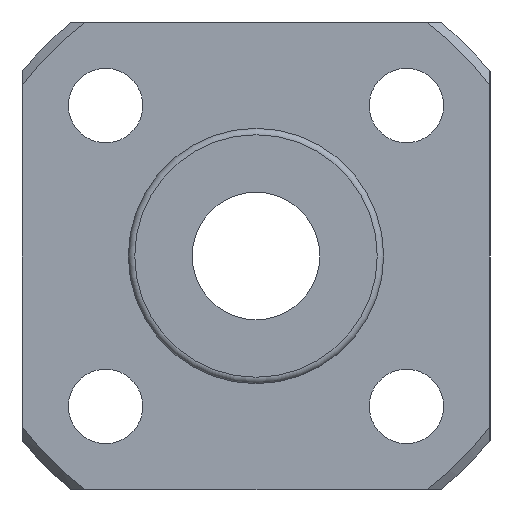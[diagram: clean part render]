
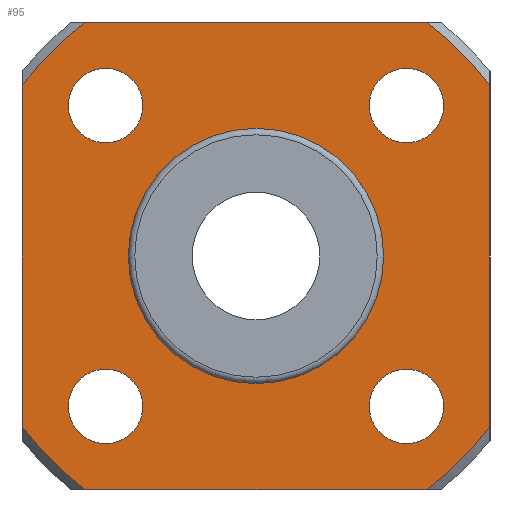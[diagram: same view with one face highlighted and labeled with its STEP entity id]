
A CAD part, left-side view. The second image highlights one B-rep face of the part: STEP entity #95.
In plain terms, the highlighted planar face has unit normal (-1, 0, 0).
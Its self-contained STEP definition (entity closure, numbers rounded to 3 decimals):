
#95=ADVANCED_FACE('',(#171,#172,#173,#174,#175,#176),#177,.T.);
#171=FACE_BOUND('',#271,.T.);
#172=FACE_BOUND('',#272,.T.);
#173=FACE_BOUND('',#273,.T.);
#174=FACE_BOUND('',#274,.T.);
#175=FACE_BOUND('',#275,.T.);
#176=FACE_OUTER_BOUND('',#276,.T.);
#177=PLANE('',#277);
#271=EDGE_LOOP('',(#445));
#272=EDGE_LOOP('',(#446));
#273=EDGE_LOOP('',(#447));
#274=EDGE_LOOP('',(#448));
#275=EDGE_LOOP('',(#449));
#276=EDGE_LOOP('',(#450,#451,#452,#453,#454,#455,#456,#457));
#277=AXIS2_PLACEMENT_3D('',#458,#459,#460);
#445=ORIENTED_EDGE('',*,*,#575,.T.);
#446=ORIENTED_EDGE('',*,*,#579,.T.);
#447=ORIENTED_EDGE('',*,*,#615,.T.);
#448=ORIENTED_EDGE('',*,*,#577,.T.);
#449=ORIENTED_EDGE('',*,*,#573,.T.);
#450=ORIENTED_EDGE('',*,*,#590,.F.);
#451=ORIENTED_EDGE('',*,*,#567,.T.);
#452=ORIENTED_EDGE('',*,*,#616,.F.);
#453=ORIENTED_EDGE('',*,*,#605,.T.);
#454=ORIENTED_EDGE('',*,*,#617,.F.);
#455=ORIENTED_EDGE('',*,*,#597,.T.);
#456=ORIENTED_EDGE('',*,*,#618,.F.);
#457=ORIENTED_EDGE('',*,*,#619,.T.);
#458=CARTESIAN_POINT('',(-5.0,9.675,0.));
#459=DIRECTION('',(-1.0,0.0,0.));
#460=DIRECTION('',(0.,0.0,1.0));
#567=EDGE_CURVE('',#644,#642,#645,.T.);
#573=EDGE_CURVE('',#655,#655,#656,.F.);
#575=EDGE_CURVE('',#659,#659,#660,.F.);
#577=EDGE_CURVE('',#663,#663,#664,.F.);
#579=EDGE_CURVE('',#667,#667,#668,.F.);
#590=EDGE_CURVE('',#644,#689,#690,.T.);
#597=EDGE_CURVE('',#703,#701,#704,.T.);
#605=EDGE_CURVE('',#719,#717,#720,.T.);
#615=EDGE_CURVE('',#734,#734,#735,.T.);
#616=EDGE_CURVE('',#719,#642,#736,.T.);
#617=EDGE_CURVE('',#703,#717,#737,.T.);
#618=EDGE_CURVE('',#738,#701,#739,.T.);
#619=EDGE_CURVE('',#738,#689,#740,.T.);
#642=VERTEX_POINT('',#776);
#644=VERTEX_POINT('',#781);
#645=LINE('',#782,#783);
#655=VERTEX_POINT('',#797);
#656=CIRCLE('',#798,1.75);
#659=VERTEX_POINT('',#801);
#660=CIRCLE('',#802,1.75);
#663=VERTEX_POINT('',#805);
#664=CIRCLE('',#806,1.75);
#667=VERTEX_POINT('',#809);
#668=CIRCLE('',#810,1.75);
#689=VERTEX_POINT('',#831);
#690=CIRCLE('',#832,13.6);
#701=VERTEX_POINT('',#854);
#703=VERTEX_POINT('',#859);
#704=LINE('',#860,#861);
#717=VERTEX_POINT('',#886);
#719=VERTEX_POINT('',#891);
#720=LINE('',#892,#893);
#734=VERTEX_POINT('',#912);
#735=CIRCLE('',#913,5.75);
#736=CIRCLE('',#914,13.6);
#737=CIRCLE('',#915,13.6);
#738=VERTEX_POINT('',#916);
#739=CIRCLE('',#917,13.6);
#740=LINE('',#918,#919);
#776=CARTESIAN_POINT('',(-5.0,-11.0,7.997));
#781=CARTESIAN_POINT('',(-5.0,-11.0,-7.997));
#782=CARTESIAN_POINT('',(-5.0,-11.0,0.));
#783=VECTOR('',#951,1.0);
#797=CARTESIAN_POINT('',(-5.0,7.071,-5.321));
#798=AXIS2_PLACEMENT_3D('',#962,#963,#964);
#801=CARTESIAN_POINT('',(-5.0,-7.071,-5.321));
#802=AXIS2_PLACEMENT_3D('',#968,#969,#970);
#805=CARTESIAN_POINT('',(-5.0,-7.071,8.821));
#806=AXIS2_PLACEMENT_3D('',#974,#975,#976);
#809=CARTESIAN_POINT('',(-5.0,7.071,8.821));
#810=AXIS2_PLACEMENT_3D('',#980,#981,#982);
#831=CARTESIAN_POINT('',(-5.0,-7.997,-11.0));
#832=AXIS2_PLACEMENT_3D('',#1013,#1014,#1015);
#854=CARTESIAN_POINT('',(-5.0,11.0,-7.997));
#859=CARTESIAN_POINT('',(-5.0,11.0,7.997));
#860=CARTESIAN_POINT('',(-5.0,11.0,0.));
#861=VECTOR('',#1018,1.0);
#886=CARTESIAN_POINT('',(-5.0,7.997,11.0));
#891=CARTESIAN_POINT('',(-5.0,-7.997,11.0));
#892=CARTESIAN_POINT('',(-5.0,9.675,11.0));
#893=VECTOR('',#1022,1.0);
#912=CARTESIAN_POINT('',(-5.0,5.75,0.));
#913=AXIS2_PLACEMENT_3D('',#1043,#1044,#1045);
#914=AXIS2_PLACEMENT_3D('',#1046,#1047,#1048);
#915=AXIS2_PLACEMENT_3D('',#1049,#1050,#1051);
#916=CARTESIAN_POINT('',(-5.0,7.997,-11.0));
#917=AXIS2_PLACEMENT_3D('',#1052,#1053,#1054);
#918=CARTESIAN_POINT('',(-5.0,9.675,-11.0));
#919=VECTOR('',#1055,1.0);
#951=DIRECTION('',(0.,0.,1.0));
#962=CARTESIAN_POINT('',(-5.0,7.071,-7.071));
#963=DIRECTION('',(-1.0,0.0,0.));
#964=DIRECTION('',(0.,0.0,1.0));
#968=CARTESIAN_POINT('',(-5.0,-7.071,-7.071));
#969=DIRECTION('',(-1.0,0.0,0.));
#970=DIRECTION('',(0.,0.0,1.0));
#974=CARTESIAN_POINT('',(-5.0,-7.071,7.071));
#975=DIRECTION('',(-1.0,0.0,0.));
#976=DIRECTION('',(0.,0.0,1.0));
#980=CARTESIAN_POINT('',(-5.0,7.071,7.071));
#981=DIRECTION('',(-1.0,0.0,0.));
#982=DIRECTION('',(0.,0.0,1.0));
#1013=CARTESIAN_POINT('',(-5.0,0.0,0.));
#1014=DIRECTION('',(1.0,0.0,0.));
#1015=DIRECTION('',(0.0,1.0,0.0));
#1018=DIRECTION('',(0.,0.,-1.0));
#1022=DIRECTION('',(0.0,1.0,0.0));
#1043=CARTESIAN_POINT('',(-5.0,0.0,0.));
#1044=DIRECTION('',(1.0,0.0,0.));
#1045=DIRECTION('',(0.0,1.0,0.0));
#1046=CARTESIAN_POINT('',(-5.0,0.0,0.));
#1047=DIRECTION('',(1.0,0.0,0.));
#1048=DIRECTION('',(0.0,1.0,0.0));
#1049=CARTESIAN_POINT('',(-5.0,0.0,0.));
#1050=DIRECTION('',(1.0,0.0,0.));
#1051=DIRECTION('',(0.0,1.0,0.0));
#1052=CARTESIAN_POINT('',(-5.0,0.0,0.));
#1053=DIRECTION('',(1.0,0.0,0.));
#1054=DIRECTION('',(0.0,1.0,0.0));
#1055=DIRECTION('',(0.0,-1.0,0.0));
